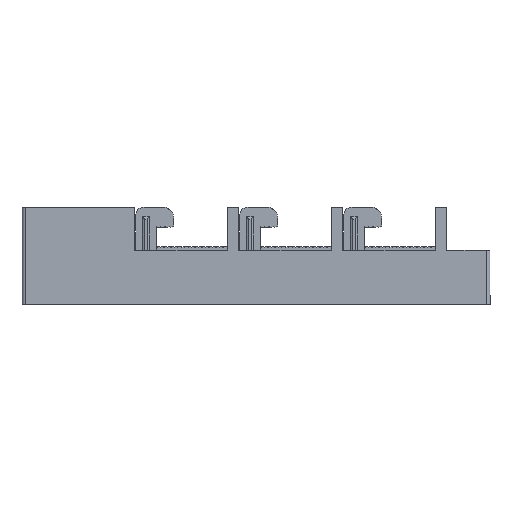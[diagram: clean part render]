
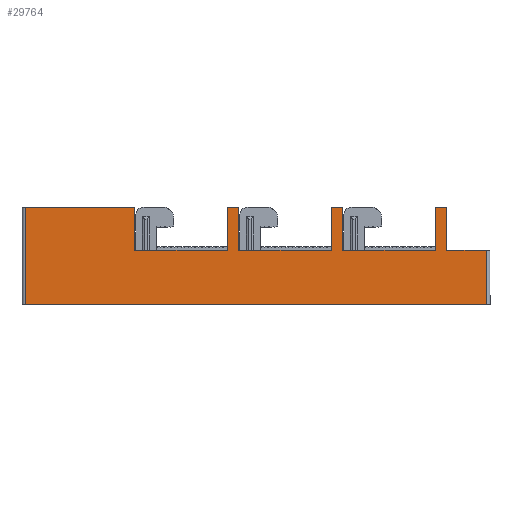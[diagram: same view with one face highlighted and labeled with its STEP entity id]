
A CAD part, left-side view. The second image highlights one B-rep face of the part: STEP entity #29764.
In plain terms, the highlighted planar face has unit normal (-1, 0, 0).
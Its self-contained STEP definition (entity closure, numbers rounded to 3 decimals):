
#460 = VECTOR ( 'NONE', #41063, 1000. ) ;
#1362 = CARTESIAN_POINT ( 'NONE',  ( -101.245, -39.978, 277.5 ) ) ;
#2134 = VECTOR ( 'NONE', #108860, 1000. ) ;
#3399 = DIRECTION ( 'NONE',  ( 0., 0., -1. ) ) ;
#4295 = VERTEX_POINT ( 'NONE', #112170 ) ;
#4330 = CARTESIAN_POINT ( 'NONE',  ( -101.245, -93.478, 302.5 ) ) ;
#4383 = FACE_OUTER_BOUND ( 'NONE', #99309, .T. ) ;
#4514 = CARTESIAN_POINT ( 'NONE',  ( -101.245, -39.978, 302.5 ) ) ;
#4549 = DIRECTION ( 'NONE',  ( 0., -1., 0. ) ) ;
#5947 = LINE ( 'NONE', #110237, #460 ) ;
#7114 = EDGE_CURVE ( 'NONE', #40543, #4295, #15590, .T. ) ;
#8749 = CARTESIAN_POINT ( 'NONE',  ( -101.245, -93.478, 302.5 ) ) ;
#9370 = EDGE_CURVE ( 'NONE', #38361, #12283, #67115, .T. ) ;
#10474 = VERTEX_POINT ( 'NONE', #4330 ) ;
#11086 = LINE ( 'NONE', #25457, #50830 ) ;
#11853 = VERTEX_POINT ( 'NONE', #105775 ) ;
#12197 = ORIENTED_EDGE ( 'NONE', *, *, #20402, .T. ) ;
#12283 = VERTEX_POINT ( 'NONE', #28040 ) ;
#13931 = ORIENTED_EDGE ( 'NONE', *, *, #56343, .F. ) ;
#15183 = CARTESIAN_POINT ( 'NONE',  ( -101.245, -39.978, 302.5 ) ) ;
#15590 = LINE ( 'NONE', #26854, #62152 ) ;
#15644 = EDGE_CURVE ( 'NONE', #77667, #45641, #55411, .T. ) ;
#17019 = VERTEX_POINT ( 'NONE', #100148 ) ;
#17171 = EDGE_CURVE ( 'NONE', #12283, #88706, #102919, .T. ) ;
#17784 = VECTOR ( 'NONE', #68138, 1000. ) ;
#17892 = ORIENTED_EDGE ( 'NONE', *, *, #37097, .F. ) ;
#20209 = ORIENTED_EDGE ( 'NONE', *, *, #23400, .F. ) ;
#20402 = EDGE_CURVE ( 'NONE', #66216, #29332, #59677, .T. ) ;
#20573 = ORIENTED_EDGE ( 'NONE', *, *, #90026, .F. ) ;
#22077 = ORIENTED_EDGE ( 'NONE', *, *, #7114, .F. ) ;
#22663 = CARTESIAN_POINT ( 'NONE',  ( -101.245, -124.978, 302.5 ) ) ;
#23400 = EDGE_CURVE ( 'NONE', #45641, #46666, #104135, .T. ) ;
#24325 = DIRECTION ( 'NONE',  ( 0., 0., 1. ) ) ;
#24617 = VECTOR ( 'NONE', #79923, 1000. ) ;
#24874 = CARTESIAN_POINT ( 'NONE',  ( -101.245, 143.022, 302.5 ) ) ;
#25457 = CARTESIAN_POINT ( 'NONE',  ( -101.245, 26.522, 302.5 ) ) ;
#26755 = CARTESIAN_POINT ( 'NONE',  ( -101.245, -124.978, 246. ) ) ;
#26854 = CARTESIAN_POINT ( 'NONE',  ( -101.245, 80.022, 302.5 ) ) ;
#27406 = DIRECTION ( 'NONE',  ( 0., 0., -1. ) ) ;
#28040 = CARTESIAN_POINT ( 'NONE',  ( -101.245, -39.978, 277.5 ) ) ;
#29332 = VERTEX_POINT ( 'NONE', #40379 ) ;
#29349 = CARTESIAN_POINT ( 'NONE',  ( -101.245, 80.022, 302.5 ) ) ;
#29413 = VECTOR ( 'NONE', #27406, 1000. ) ;
#29764 = ADVANCED_FACE ( 'NONE', ( #4383 ), #69611, .T. ) ;
#32109 = CARTESIAN_POINT ( 'NONE',  ( -101.245, 20.022, 302.5 ) ) ;
#32831 = VERTEX_POINT ( 'NONE', #110525 ) ;
#36160 = LINE ( 'NONE', #103600, #85200 ) ;
#37097 = EDGE_CURVE ( 'NONE', #32831, #29332, #68399, .T. ) ;
#37891 = LINE ( 'NONE', #22663, #72109 ) ;
#38180 = CARTESIAN_POINT ( 'NONE',  ( -101.245, 143.022, 238.5 ) ) ;
#38361 = VERTEX_POINT ( 'NONE', #4514 ) ;
#38649 = VECTOR ( 'NONE', #97409, 1000. ) ;
#40325 = VERTEX_POINT ( 'NONE', #80257 ) ;
#40379 = CARTESIAN_POINT ( 'NONE',  ( -101.245, 143.022, 246. ) ) ;
#40477 = VERTEX_POINT ( 'NONE', #98977 ) ;
#40543 = VERTEX_POINT ( 'NONE', #29349 ) ;
#40957 = LINE ( 'NONE', #68420, #62862 ) ;
#41063 = DIRECTION ( 'NONE',  ( 0., -1., 0. ) ) ;
#42325 = CARTESIAN_POINT ( 'NONE',  ( -101.245, -93.478, 302.5 ) ) ;
#43017 = EDGE_CURVE ( 'NONE', #40325, #53619, #40957, .T. ) ;
#45641 = VERTEX_POINT ( 'NONE', #81812 ) ;
#46666 = VERTEX_POINT ( 'NONE', #94763 ) ;
#47961 = ORIENTED_EDGE ( 'NONE', *, *, #87652, .F. ) ;
#48552 = ORIENTED_EDGE ( 'NONE', *, *, #17171, .F. ) ;
#49781 = CARTESIAN_POINT ( 'NONE',  ( -101.245, 80.022, 277.5 ) ) ;
#50830 = VECTOR ( 'NONE', #24325, 1000. ) ;
#51167 = DIRECTION ( 'NONE',  ( 0., 0., 1. ) ) ;
#52644 = CARTESIAN_POINT ( 'NONE',  ( -101.245, -99.928, 277.5 ) ) ;
#53619 = VERTEX_POINT ( 'NONE', #109169 ) ;
#54367 = LINE ( 'NONE', #76580, #83125 ) ;
#54843 = VECTOR ( 'NONE', #3399, 1000. ) ;
#55411 = LINE ( 'NONE', #52644, #29413 ) ;
#55863 = ORIENTED_EDGE ( 'NONE', *, *, #109195, .F. ) ;
#55904 = ORIENTED_EDGE ( 'NONE', *, *, #98932, .F. ) ;
#56343 = EDGE_CURVE ( 'NONE', #4295, #74728, #58852, .T. ) ;
#56759 = LINE ( 'NONE', #95973, #59500 ) ;
#57892 = EDGE_CURVE ( 'NONE', #17019, #11853, #54367, .T. ) ;
#58671 = VECTOR ( 'NONE', #4549, 1000. ) ;
#58852 = LINE ( 'NONE', #49781, #17784 ) ;
#59358 = DIRECTION ( 'NONE',  ( 0., 0., 1. ) ) ;
#59500 = VECTOR ( 'NONE', #105514, 1000. ) ;
#59677 = LINE ( 'NONE', #38180, #2134 ) ;
#60688 = ORIENTED_EDGE ( 'NONE', *, *, #43017, .F. ) ;
#62152 = VECTOR ( 'NONE', #89186, 1000. ) ;
#62862 = VECTOR ( 'NONE', #78379, 1000. ) ;
#66216 = VERTEX_POINT ( 'NONE', #24874 ) ;
#67115 = LINE ( 'NONE', #99104, #54843 ) ;
#68138 = DIRECTION ( 'NONE',  ( 0., -1., 0. ) ) ;
#68399 = LINE ( 'NONE', #26755, #24617 ) ;
#68420 = CARTESIAN_POINT ( 'NONE',  ( -101.245, 20.022, 302.5 ) ) ;
#69306 = CARTESIAN_POINT ( 'NONE',  ( -101.245, -93.478, 277.5 ) ) ;
#69611 = PLANE ( 'NONE',  #91227 ) ;
#70696 = ORIENTED_EDGE ( 'NONE', *, *, #57892, .F. ) ;
#72109 = VECTOR ( 'NONE', #84300, 1000. ) ;
#73719 = LINE ( 'NONE', #32109, #58671 ) ;
#74510 = EDGE_CURVE ( 'NONE', #88706, #10474, #89415, .T. ) ;
#74728 = VERTEX_POINT ( 'NONE', #77863 ) ;
#74965 = EDGE_CURVE ( 'NONE', #53619, #17019, #5947, .T. ) ;
#75713 = VECTOR ( 'NONE', #76776, 1000. ) ;
#76580 = CARTESIAN_POINT ( 'NONE',  ( -101.245, -33.478, 302.5 ) ) ;
#76776 = DIRECTION ( 'NONE',  ( 0., -1., 0. ) ) ;
#77667 = VERTEX_POINT ( 'NONE', #97106 ) ;
#77863 = CARTESIAN_POINT ( 'NONE',  ( -101.245, 26.522, 277.5 ) ) ;
#78379 = DIRECTION ( 'NONE',  ( 0., 0., -1. ) ) ;
#78819 = DIRECTION ( 'NONE',  ( 0., 0., 1. ) ) ;
#79844 = ORIENTED_EDGE ( 'NONE', *, *, #74965, .F. ) ;
#79923 = DIRECTION ( 'NONE',  ( 0., 1., 0. ) ) ;
#80257 = CARTESIAN_POINT ( 'NONE',  ( -101.245, 20.022, 302.5 ) ) ;
#81812 = CARTESIAN_POINT ( 'NONE',  ( -101.245, -99.928, 277.5 ) ) ;
#83125 = VECTOR ( 'NONE', #59358, 1000. ) ;
#84300 = DIRECTION ( 'NONE',  ( 0., -1., 0. ) ) ;
#85200 = VECTOR ( 'NONE', #51167, 1000. ) ;
#87652 = EDGE_CURVE ( 'NONE', #40477, #40325, #73719, .T. ) ;
#87821 = VECTOR ( 'NONE', #96644, 1000. ) ;
#88706 = VERTEX_POINT ( 'NONE', #69306 ) ;
#89186 = DIRECTION ( 'NONE',  ( 0., 0., -1. ) ) ;
#89415 = LINE ( 'NONE', #42325, #104414 ) ;
#90026 = EDGE_CURVE ( 'NONE', #10474, #77667, #37891, .T. ) ;
#91227 = AXIS2_PLACEMENT_3D ( 'NONE', #8749, #104429, #78819 ) ;
#92224 = ORIENTED_EDGE ( 'NONE', *, *, #74510, .F. ) ;
#94763 = CARTESIAN_POINT ( 'NONE',  ( -101.245, -122.978, 277.5 ) ) ;
#94972 = LINE ( 'NONE', #15183, #75713 ) ;
#95973 = CARTESIAN_POINT ( 'NONE',  ( -101.245, 80.022, 302.5 ) ) ;
#96589 = ORIENTED_EDGE ( 'NONE', *, *, #106677, .T. ) ;
#96644 = DIRECTION ( 'NONE',  ( 0., -1., 0. ) ) ;
#97106 = CARTESIAN_POINT ( 'NONE',  ( -101.245, -99.928, 302.5 ) ) ;
#97409 = DIRECTION ( 'NONE',  ( 0., -1., 0. ) ) ;
#98932 = EDGE_CURVE ( 'NONE', #66216, #40543, #56759, .T. ) ;
#98977 = CARTESIAN_POINT ( 'NONE',  ( -101.245, 26.522, 302.5 ) ) ;
#99104 = CARTESIAN_POINT ( 'NONE',  ( -101.245, -39.978, 302.5 ) ) ;
#99309 = EDGE_LOOP ( 'NONE', ( #96589, #20209, #112956, #20573, #92224, #48552, #101537, #55863, #70696, #79844, #60688, #47961, #100454, #13931, #22077, #55904, #12197, #17892 ) ) ;
#100148 = CARTESIAN_POINT ( 'NONE',  ( -101.245, -33.478, 277.5 ) ) ;
#100454 = ORIENTED_EDGE ( 'NONE', *, *, #100930, .F. ) ;
#100930 = EDGE_CURVE ( 'NONE', #74728, #40477, #11086, .T. ) ;
#101537 = ORIENTED_EDGE ( 'NONE', *, *, #9370, .F. ) ;
#102919 = LINE ( 'NONE', #1362, #38649 ) ;
#103119 = DIRECTION ( 'NONE',  ( 0., 0., 1. ) ) ;
#103600 = CARTESIAN_POINT ( 'NONE',  ( -101.245, -122.978, 277.5 ) ) ;
#104135 = LINE ( 'NONE', #113431, #87821 ) ;
#104414 = VECTOR ( 'NONE', #103119, 1000. ) ;
#104429 = DIRECTION ( 'NONE',  ( -1., 0., 0. ) ) ;
#105514 = DIRECTION ( 'NONE',  ( 0., -1., 0. ) ) ;
#105775 = CARTESIAN_POINT ( 'NONE',  ( -101.245, -33.478, 302.5 ) ) ;
#106677 = EDGE_CURVE ( 'NONE', #32831, #46666, #36160, .T. ) ;
#108860 = DIRECTION ( 'NONE',  ( 0., 0., -1. ) ) ;
#109169 = CARTESIAN_POINT ( 'NONE',  ( -101.245, 20.022, 277.5 ) ) ;
#109195 = EDGE_CURVE ( 'NONE', #11853, #38361, #94972, .T. ) ;
#110237 = CARTESIAN_POINT ( 'NONE',  ( -101.245, 20.022, 277.5 ) ) ;
#110525 = CARTESIAN_POINT ( 'NONE',  ( -101.245, -122.978, 246. ) ) ;
#112170 = CARTESIAN_POINT ( 'NONE',  ( -101.245, 80.022, 277.5 ) ) ;
#112956 = ORIENTED_EDGE ( 'NONE', *, *, #15644, .F. ) ;
#113431 = CARTESIAN_POINT ( 'NONE',  ( -101.245, -99.928, 277.5 ) ) ;
